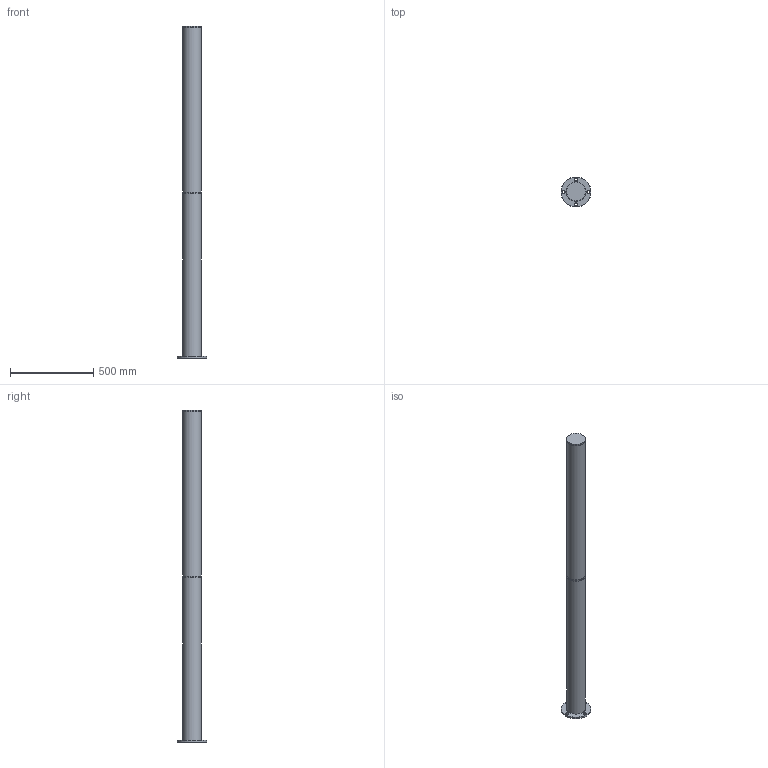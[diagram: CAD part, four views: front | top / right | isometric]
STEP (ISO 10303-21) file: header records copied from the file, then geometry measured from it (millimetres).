
FILE_DESCRIPTION(/* description */ (''),/* implementation_level */ '2;1');
FILE_NAME(/* name */ 'Lester 2000mm.step',/* time_stamp */ '2026-07-28T20:06:21+03:00',/* author */ (''),/* organization */ (''),/* preprocessor_version */ 'ST-DEVELOPER v20.1',/* originating_system */ 'Autodesk Translation Framework v15.8.0.0',/* authorisation */ '');
FILE_SCHEMA (('AUTOMOTIVE_DESIGN { 1 0 10303 214 3 1 1 }'));
Length unit declared in the file: millimetre
Products named in the file (1): Lester 2000mm
Bounding box: 180 x 180 x 2000 mm (x, y, z)
Volume: 19873983.7 mm3; surface area: 847914.3 mm2
Topology: 13 solids, 13 shells, 148 faces, 355 edges, 235 vertices
Faces by surface type: cylinder 73, plane 63, torus 10, cone 2
Full cylindrical faces by diameter (mm): 5 x3, 8 x1, 12 x3, 15 x2, 16 x4, 104.365 x2, 110 x1, 113.5 x1, 114 x3, 180 x1
Entity records: 4479 total; most frequent: DIRECTION 828, CARTESIAN_POINT 739, ORIENTED_EDGE 710, EDGE_CURVE 355, AXIS2_PLACEMENT_3D 324, VERTEX_POINT 235, EDGE_LOOP 192, LINE 180
